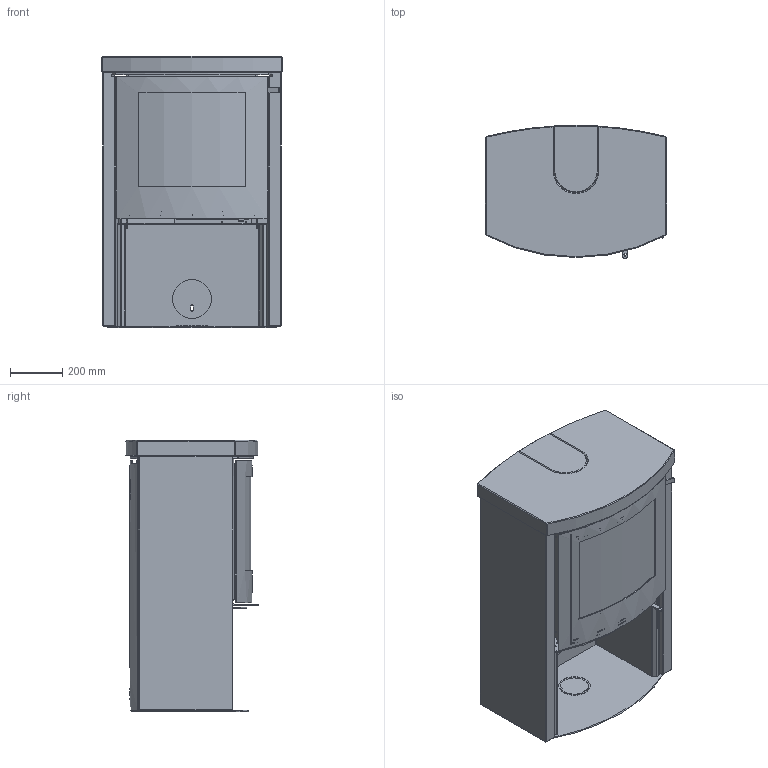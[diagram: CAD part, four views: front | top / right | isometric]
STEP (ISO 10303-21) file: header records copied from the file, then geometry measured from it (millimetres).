
FILE_DESCRIPTION(/* description */ (''),/* implementation_level */ '2;1');
FILE_NAME(/* name */ '833 Q-Tee II SST Classic BO.stp',/* time_stamp */ '2025-02-15T11:20:50+01:00',/* author */ ('pch'),/* organization */ (''),/* preprocessor_version */ 'ST-DEVELOPER v20',/* originating_system */ 'Autodesk Inventor 2025',/* authorisation */ '');
FILE_SCHEMA (('AUTOMOTIVE_DESIGN { 1 0 10303 214 3 1 1 }'));
Products named in the file (1): 833 Q-Tee II SST BO
Bounding box: 696 x 509.74 x 1041 mm (x, y, z)
Volume: 1245246 mm3; surface area: 9413081.1 mm2
Topology: 2 solids, 4 shells, 1815 faces, 5256 edges, 3357 vertices
Faces by surface type: plane 1120, cylinder 634, bspline 42, cone 19
Full cylindrical faces by diameter (mm): 0.1 x3, 3.242 x3, 4.134 x7, 4.2 x5, 4.917 x3, 5 x16, 5.5 x2, 6 x4, 7 x5, 8 x6, 8.5 x3, 10 x4, 10.1 x2, 25 x3, 30 x1, 40 x10, 110 x1, 111 x1, 120 x1, 153.5 x1, 158 x1
Entity records: 63547 total; most frequent: CARTESIAN_POINT 12577, ORIENTED_EDGE 10510, DIRECTION 9913, EDGE_CURVE 5255, LINE 3851, VECTOR 3851, VERTEX_POINT 3365, AXIS2_PLACEMENT_3D 3031
